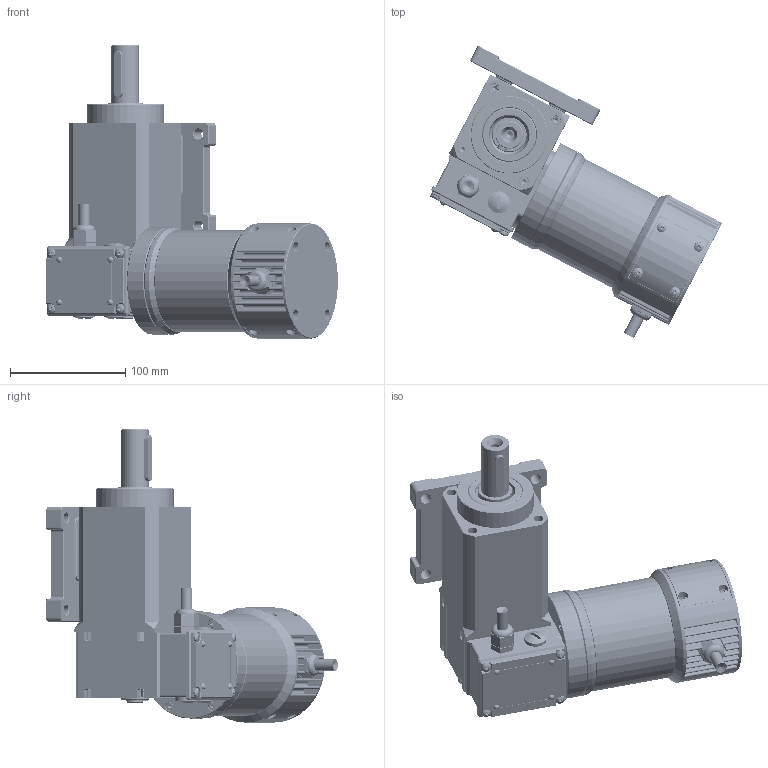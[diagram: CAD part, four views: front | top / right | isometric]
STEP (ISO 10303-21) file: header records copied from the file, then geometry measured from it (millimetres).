
FILE_DESCRIPTION((''),'2;1');
FILE_NAME('C:\Documents and Settings\marco\Desktop\DATI\DATI MARCO\Disegni inventor\STEP\PCCE\PCCE_MP3N-B3.stp','2003-08-27T16:13:52',('Administrator'),(''),'Autodesk Inventor 7','Autodesk Inventor 7','');
FILE_SCHEMA(('AUTOMOTIVE_DESIGN { 1 0 10303 214 1 1 1 1 }'));
Length unit declared in the file: millimetre
Products named in the file (1): PCCE_MP3N-B3
Bounding box: 253.18 x 253.36 x 254.5 mm (x, y, z)
Volume: 1247710.9 mm3; surface area: 440747.1 mm2
Topology: 66 solids, 66 shells, 6117 faces, 16720 edges, 10747 vertices
Faces by surface type: plane 2992, cylinder 1531, cone 716, bspline 672, torus 178, sphere 28
Entity records: 212423 total; most frequent: CARTESIAN_POINT 58563, ORIENTED_EDGE 33132, DIRECTION 32083, EDGE_CURVE 16566, AXIS2_PLACEMENT_3D 11391, VERTEX_POINT 10747, VECTOR 9301, LINE 9301
